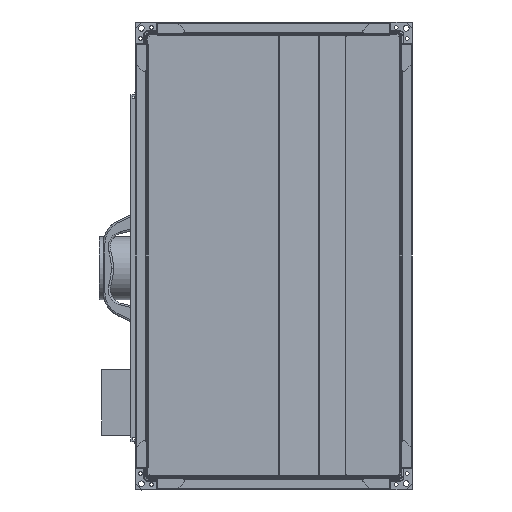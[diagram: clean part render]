
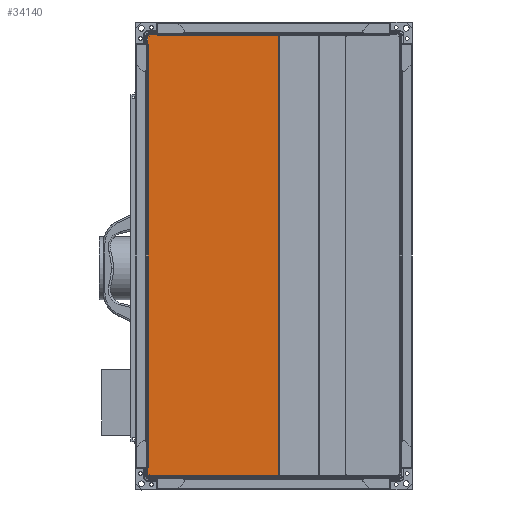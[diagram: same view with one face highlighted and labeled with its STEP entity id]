
A CAD part, left-side view. The second image highlights one B-rep face of the part: STEP entity #34140.
In plain terms, the highlighted planar face has unit normal (-1, 0, 0).
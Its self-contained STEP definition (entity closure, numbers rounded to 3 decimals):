
#2860=FACE_OUTER_BOUND('',#4667,.T.);
#4667=EDGE_LOOP('',(#25044,#25045,#25046,#25047,#25048,#25049,#25050,#25051,
#25052,#25053,#25054,#25055));
#7724=LINE('',#53949,#10981);
#7728=LINE('',#53956,#10985);
#7753=LINE('',#54012,#11010);
#7781=LINE('',#54071,#11038);
#7796=LINE('',#54101,#11053);
#7835=LINE('',#54170,#11092);
#7853=LINE('',#54204,#11110);
#7854=LINE('',#54205,#11111);
#7855=LINE('',#54206,#11112);
#7856=LINE('',#54208,#11113);
#7857=LINE('',#54210,#11114);
#7858=LINE('',#54211,#11115);
#10981=VECTOR('',#40139,10.);
#10985=VECTOR('',#40145,10.);
#11010=VECTOR('',#40184,10.);
#11038=VECTOR('',#40228,10.);
#11053=VECTOR('',#40249,10.);
#11092=VECTOR('',#40300,10.);
#11110=VECTOR('',#40328,10.);
#11111=VECTOR('',#40329,10.);
#11112=VECTOR('',#40330,10.);
#11113=VECTOR('',#40331,10.);
#11114=VECTOR('',#40332,10.);
#11115=VECTOR('',#40333,10.);
#14272=VERTEX_POINT('',#53946);
#14273=VERTEX_POINT('',#53948);
#14275=VERTEX_POINT('',#53954);
#14298=VERTEX_POINT('',#54009);
#14299=VERTEX_POINT('',#54011);
#14322=VERTEX_POINT('',#54070);
#14333=VERTEX_POINT('',#54098);
#14334=VERTEX_POINT('',#54100);
#14358=VERTEX_POINT('',#54168);
#14369=VERTEX_POINT('',#54203);
#14370=VERTEX_POINT('',#54207);
#14371=VERTEX_POINT('',#54209);
#18122=EDGE_CURVE('',#14273,#14272,#7724,.T.);
#18126=EDGE_CURVE('',#14275,#14272,#7728,.T.);
#18151=EDGE_CURVE('',#14298,#14299,#7753,.T.);
#18179=EDGE_CURVE('',#14273,#14322,#7781,.T.);
#18194=EDGE_CURVE('',#14333,#14334,#7796,.T.);
#18233=EDGE_CURVE('',#14358,#14275,#7835,.T.);
#18251=EDGE_CURVE('',#14369,#14298,#7853,.T.);
#18252=EDGE_CURVE('',#14322,#14369,#7854,.T.);
#18253=EDGE_CURVE('',#14334,#14358,#7855,.T.);
#18254=EDGE_CURVE('',#14370,#14333,#7856,.T.);
#18255=EDGE_CURVE('',#14371,#14370,#7857,.T.);
#18256=EDGE_CURVE('',#14299,#14371,#7858,.T.);
#25044=ORIENTED_EDGE('',*,*,#18251,.F.);
#25045=ORIENTED_EDGE('',*,*,#18252,.F.);
#25046=ORIENTED_EDGE('',*,*,#18179,.F.);
#25047=ORIENTED_EDGE('',*,*,#18122,.T.);
#25048=ORIENTED_EDGE('',*,*,#18126,.F.);
#25049=ORIENTED_EDGE('',*,*,#18233,.F.);
#25050=ORIENTED_EDGE('',*,*,#18253,.F.);
#25051=ORIENTED_EDGE('',*,*,#18194,.F.);
#25052=ORIENTED_EDGE('',*,*,#18254,.F.);
#25053=ORIENTED_EDGE('',*,*,#18255,.F.);
#25054=ORIENTED_EDGE('',*,*,#18256,.F.);
#25055=ORIENTED_EDGE('',*,*,#18151,.F.);
#31663=PLANE('',#35772);
#34140=ADVANCED_FACE('',(#2860),#31663,.F.);
#35772=AXIS2_PLACEMENT_3D('',#54202,#40326,#40327);
#40139=DIRECTION('',(0.,0.,-1.));
#40145=DIRECTION('',(0.,1.,0.));
#40184=DIRECTION('',(0.,0.,1.));
#40228=DIRECTION('',(0.,1.,0.));
#40249=DIRECTION('',(0.,0.,-1.));
#40300=DIRECTION('',(0.,0.,-1.));
#40326=DIRECTION('center_axis',(1.,0.,0.));
#40327=DIRECTION('ref_axis',(0.,-1.,0.));
#40328=DIRECTION('',(0.,-1.,0.));
#40329=DIRECTION('',(0.,0.,1.));
#40330=DIRECTION('',(0.,1.,0.));
#40331=DIRECTION('',(0.,-1.,0.));
#40332=DIRECTION('',(0.,0.,-1.));
#40333=DIRECTION('',(0.,-1.,0.));
#53946=CARTESIAN_POINT('',(14.763,-15.569,-13.5));
#53948=CARTESIAN_POINT('',(14.763,-15.569,-11.5));
#53949=CARTESIAN_POINT('',(14.763,-15.569,161.25));
#53954=CARTESIAN_POINT('',(14.763,-220.74,-13.5));
#53956=CARTESIAN_POINT('',(14.763,-117.937,-13.5));
#54009=CARTESIAN_POINT('',(14.763,-15.569,683.5));
#54011=CARTESIAN_POINT('',(14.763,-15.569,685.5));
#54012=CARTESIAN_POINT('',(14.763,-15.569,510.25));
#54070=CARTESIAN_POINT('',(14.763,-13.569,-11.5));
#54071=CARTESIAN_POINT('',(14.763,-14.593,-11.5));
#54098=CARTESIAN_POINT('',(14.763,-221.569,683.5));
#54100=CARTESIAN_POINT('',(14.763,-221.569,-11.5));
#54101=CARTESIAN_POINT('',(14.763,-221.569,336.));
#54168=CARTESIAN_POINT('',(14.763,-220.74,-11.5));
#54170=CARTESIAN_POINT('',(14.763,-220.74,161.75));
#54202=CARTESIAN_POINT('Origin',(14.763,-117.72,336.));
#54203=CARTESIAN_POINT('',(14.763,-13.569,683.5));
#54204=CARTESIAN_POINT('',(14.763,-14.593,683.5));
#54205=CARTESIAN_POINT('',(14.763,-13.569,509.75));
#54206=CARTESIAN_POINT('',(14.763,-201.525,-11.5));
#54207=CARTESIAN_POINT('',(14.763,-220.74,683.5));
#54208=CARTESIAN_POINT('',(14.763,-169.937,683.5));
#54209=CARTESIAN_POINT('',(14.763,-220.74,685.5));
#54210=CARTESIAN_POINT('',(14.763,-220.74,510.75));
#54211=CARTESIAN_POINT('',(14.763,-117.937,685.5));
